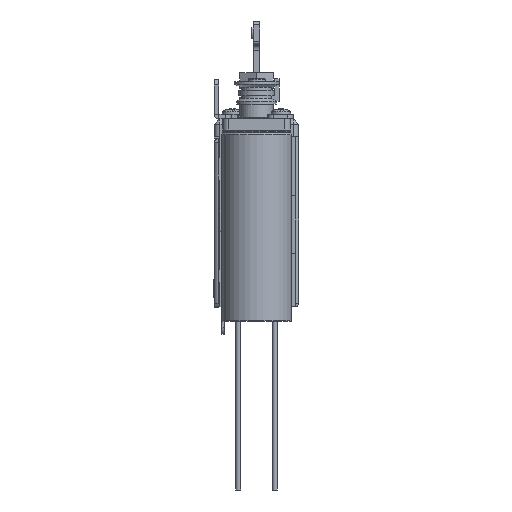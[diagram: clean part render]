
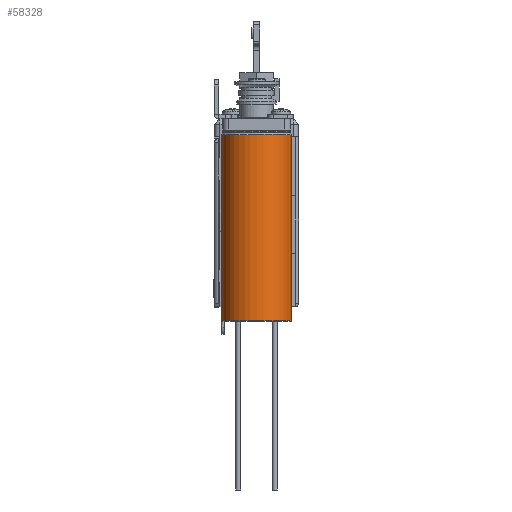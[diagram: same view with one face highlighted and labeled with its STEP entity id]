
A CAD part, left-side view. The second image highlights one B-rep face of the part: STEP entity #58328.
In plain terms, the highlighted cylindrical face has radius 6.25 mm (diameter 12.5 mm), a full revolution.
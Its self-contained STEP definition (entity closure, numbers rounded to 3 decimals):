
#55091 = CONICAL_SURFACE('',#55092,6.25,0.785);
#55092 = AXIS2_PLACEMENT_3D('',#55093,#55094,#55095);
#55093 = CARTESIAN_POINT('',(-74.5,0.,-11.));
#55094 = DIRECTION('',(-0.,0.,-1.));
#55095 = DIRECTION('',(0.5,-0.866,0.));
#56618 = VERTEX_POINT('',#56619);
#56619 = CARTESIAN_POINT('',(-71.375,-5.413,-11.));
#56638 = EDGE_CURVE('',#56618,#56618,#56639,.T.);
#56639 = SURFACE_CURVE('',#56640,(#56645,#56652),.PCURVE_S1.);
#56640 = CIRCLE('',#56641,6.25);
#56641 = AXIS2_PLACEMENT_3D('',#56642,#56643,#56644);
#56642 = CARTESIAN_POINT('',(-74.5,0.,-11.));
#56643 = DIRECTION('',(-0.,0.,1.));
#56644 = DIRECTION('',(0.5,-0.866,0.));
#56645 = PCURVE('',#55091,#56646);
#56646 = DEFINITIONAL_REPRESENTATION('',(#56647),#56651);
#56647 = LINE('',#56648,#56649);
#56648 = CARTESIAN_POINT('',(-0.,-0.));
#56649 = VECTOR('',#56650,1.);
#56650 = DIRECTION('',(-1.,-0.));
#56651 = ( GEOMETRIC_REPRESENTATION_CONTEXT(2) 
PARAMETRIC_REPRESENTATION_CONTEXT() REPRESENTATION_CONTEXT('2D SPACE',''
  ) );
#56652 = PCURVE('',#56653,#56658);
#56653 = CYLINDRICAL_SURFACE('',#56654,6.25);
#56654 = AXIS2_PLACEMENT_3D('',#56655,#56656,#56657);
#56655 = CARTESIAN_POINT('',(-74.5,0.,-44.2));
#56656 = DIRECTION('',(-0.,0.,-1.));
#56657 = DIRECTION('',(0.5,-0.866,0.));
#56658 = DEFINITIONAL_REPRESENTATION('',(#56659),#56663);
#56659 = LINE('',#56660,#56661);
#56660 = CARTESIAN_POINT('',(-0.,-33.2));
#56661 = VECTOR('',#56662,1.);
#56662 = DIRECTION('',(-1.,0.));
#56663 = ( GEOMETRIC_REPRESENTATION_CONTEXT(2) 
PARAMETRIC_REPRESENTATION_CONTEXT() REPRESENTATION_CONTEXT('2D SPACE',''
  ) );
#58328 = ADVANCED_FACE('',(#58329),#56653,.T.);
#58329 = FACE_BOUND('',#58330,.F.);
#58330 = EDGE_LOOP('',(#58331,#58354,#58355,#58356));
#58331 = ORIENTED_EDGE('',*,*,#58332,.T.);
#58332 = EDGE_CURVE('',#58333,#56618,#58335,.T.);
#58333 = VERTEX_POINT('',#58334);
#58334 = CARTESIAN_POINT('',(-71.375,-5.413,-44.1));
#58335 = SEAM_CURVE('',#58336,(#58340,#58347),.PCURVE_S1.);
#58336 = LINE('',#58337,#58338);
#58337 = CARTESIAN_POINT('',(-71.375,-5.413,-44.2));
#58338 = VECTOR('',#58339,1.);
#58339 = DIRECTION('',(0.,0.,1.));
#58340 = PCURVE('',#56653,#58341);
#58341 = DEFINITIONAL_REPRESENTATION('',(#58342),#58346);
#58342 = LINE('',#58343,#58344);
#58343 = CARTESIAN_POINT('',(-0.,0.));
#58344 = VECTOR('',#58345,1.);
#58345 = DIRECTION('',(-0.,-1.));
#58346 = ( GEOMETRIC_REPRESENTATION_CONTEXT(2) 
PARAMETRIC_REPRESENTATION_CONTEXT() REPRESENTATION_CONTEXT('2D SPACE',''
  ) );
#58347 = PCURVE('',#56653,#58348);
#58348 = DEFINITIONAL_REPRESENTATION('',(#58349),#58353);
#58349 = LINE('',#58350,#58351);
#58350 = CARTESIAN_POINT('',(-6.283,0.));
#58351 = VECTOR('',#58352,1.);
#58352 = DIRECTION('',(-0.,-1.));
#58353 = ( GEOMETRIC_REPRESENTATION_CONTEXT(2) 
PARAMETRIC_REPRESENTATION_CONTEXT() REPRESENTATION_CONTEXT('2D SPACE',''
  ) );
#58354 = ORIENTED_EDGE('',*,*,#56638,.T.);
#58355 = ORIENTED_EDGE('',*,*,#58332,.F.);
#58356 = ORIENTED_EDGE('',*,*,#58357,.F.);
#58357 = EDGE_CURVE('',#58333,#58333,#58358,.T.);
#58358 = SURFACE_CURVE('',#58359,(#58364,#58371),.PCURVE_S1.);
#58359 = CIRCLE('',#58360,6.25);
#58360 = AXIS2_PLACEMENT_3D('',#58361,#58362,#58363);
#58361 = CARTESIAN_POINT('',(-74.5,0.,-44.1));
#58362 = DIRECTION('',(-0.,0.,1.));
#58363 = DIRECTION('',(0.5,-0.866,0.));
#58364 = PCURVE('',#56653,#58365);
#58365 = DEFINITIONAL_REPRESENTATION('',(#58366),#58370);
#58366 = LINE('',#58367,#58368);
#58367 = CARTESIAN_POINT('',(-0.,-0.1));
#58368 = VECTOR('',#58369,1.);
#58369 = DIRECTION('',(-1.,0.));
#58370 = ( GEOMETRIC_REPRESENTATION_CONTEXT(2) 
PARAMETRIC_REPRESENTATION_CONTEXT() REPRESENTATION_CONTEXT('2D SPACE',''
  ) );
#58371 = PCURVE('',#58372,#58377);
#58372 = CONICAL_SURFACE('',#58373,6.25,0.785);
#58373 = AXIS2_PLACEMENT_3D('',#58374,#58375,#58376);
#58374 = CARTESIAN_POINT('',(-74.5,0.,-44.1));
#58375 = DIRECTION('',(0.,0.,1.));
#58376 = DIRECTION('',(0.5,-0.866,0.));
#58377 = DEFINITIONAL_REPRESENTATION('',(#58378),#58382);
#58378 = LINE('',#58379,#58380);
#58379 = CARTESIAN_POINT('',(0.,-0.));
#58380 = VECTOR('',#58381,1.);
#58381 = DIRECTION('',(1.,-0.));
#58382 = ( GEOMETRIC_REPRESENTATION_CONTEXT(2) 
PARAMETRIC_REPRESENTATION_CONTEXT() REPRESENTATION_CONTEXT('2D SPACE',''
  ) );
